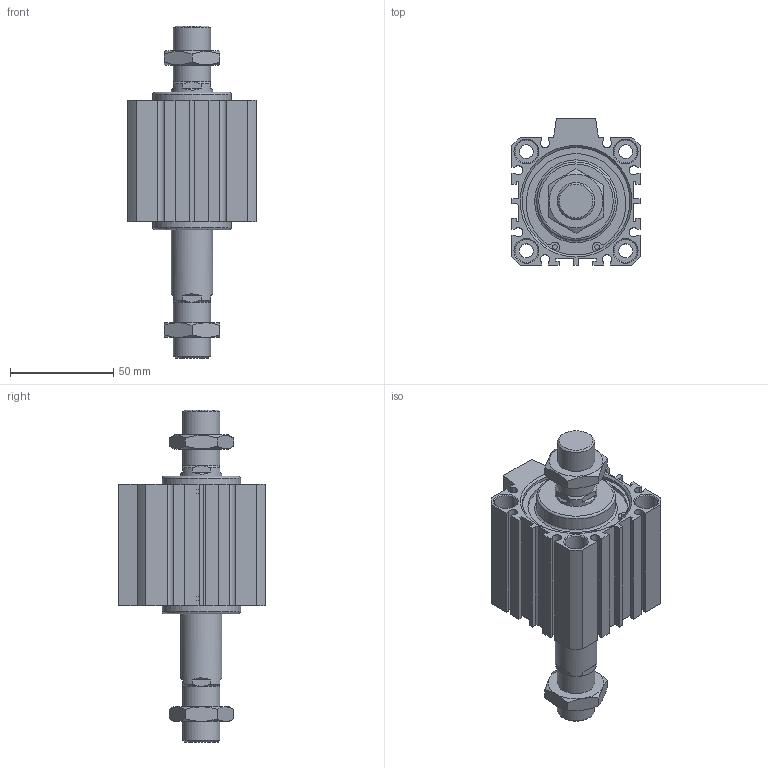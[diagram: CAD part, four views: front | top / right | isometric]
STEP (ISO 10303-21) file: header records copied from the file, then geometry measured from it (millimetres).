
FILE_DESCRIPTION((''),'2;1');
FILE_NAME('I:\3D電子目錄\氣缸\JDD\JDD-B\JDD50-B\JDD50x30-B.stp','2007-02-09T17:08:17',('662F206'),(''),'Autodesk Inventor 10','Autodesk Inventor 10','');
FILE_SCHEMA(('AUTOMOTIVE_DESIGN { 1 0 10303 214 1 1 1 1 }'));
Length unit declared in the file: millimetre
Products named in the file (3): JDD50-B; R 形環 52
Assembly tree (3 placements, depth 2):
  JDD50-B
    JDD50-B
    R 形環 52  x2
Bounding box: 62 x 71 x 160.6 mm (x, y, z)
Volume: 233697.3 mm3; surface area: 51723.8 mm2
Topology: 3 solids, 3 shells, 231 faces, 561 edges, 362 vertices
Faces by surface type: plane 133, cylinder 56, cone 38, bspline 2, torus 2
Full cylindrical faces by diameter (mm): 2.3 x4, 2.7 x2, 6.8 x4, 11 x8, 18 x4, 20 x2, 38 x2, 52 x4, 55 x2
Entity records: 6180 total; most frequent: CARTESIAN_POINT 1222, DIRECTION 1017, ORIENTED_EDGE 942, EDGE_CURVE 471, AXIS2_PLACEMENT_3D 375, VERTEX_POINT 334, EDGE_LOOP 309, VECTOR 267
